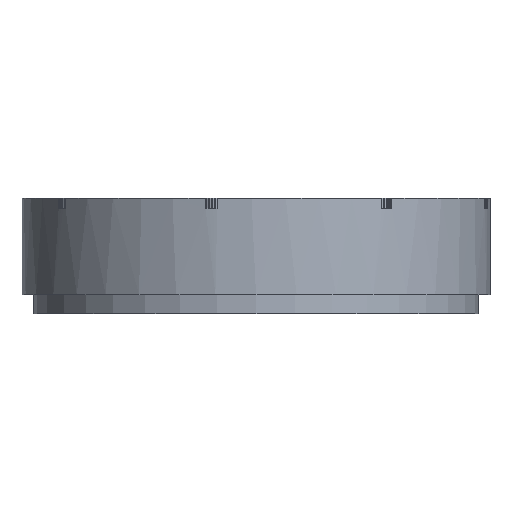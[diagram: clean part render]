
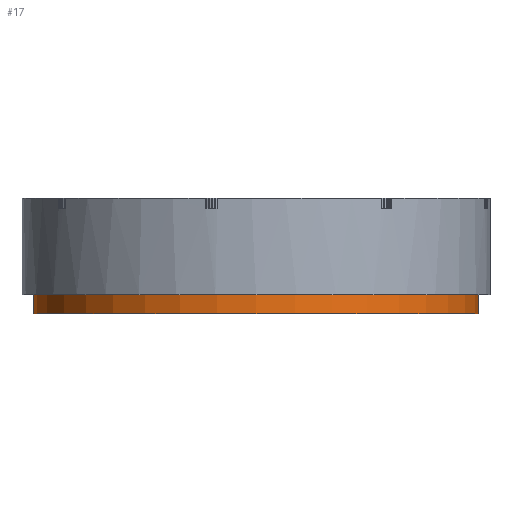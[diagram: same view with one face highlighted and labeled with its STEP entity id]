
A CAD part, front view. The second image highlights one B-rep face of the part: STEP entity #17.
In plain terms, the highlighted cylindrical face has radius 28.8 mm (diameter 57.6 mm), a full revolution.
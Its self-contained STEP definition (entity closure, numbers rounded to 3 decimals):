
#17 = ADVANCED_FACE('',(#18),#32,.T.);
#18 = FACE_BOUND('',#19,.F.);
#19 = EDGE_LOOP('',(#20,#50,#77,#78));
#20 = ORIENTED_EDGE('',*,*,#21,.T.);
#21 = EDGE_CURVE('',#22,#24,#26,.T.);
#22 = VERTEX_POINT('',#23);
#23 = CARTESIAN_POINT('',(28.8,0.,8.6));
#24 = VERTEX_POINT('',#25);
#25 = CARTESIAN_POINT('',(28.8,0.,6.1));
#26 = SEAM_CURVE('',#27,(#31,#43),.PCURVE_S1.);
#27 = LINE('',#28,#29);
#28 = CARTESIAN_POINT('',(28.8,0.,19.8));
#29 = VECTOR('',#30,1.);
#30 = DIRECTION('',(0.,0.,-1.));
#31 = PCURVE('',#32,#37);
#32 = CYLINDRICAL_SURFACE('',#33,28.8);
#33 = AXIS2_PLACEMENT_3D('',#34,#35,#36);
#34 = CARTESIAN_POINT('',(0.,0.,6.1));
#35 = DIRECTION('',(-0.,-0.,-1.));
#36 = DIRECTION('',(1.,0.,0.));
#37 = DEFINITIONAL_REPRESENTATION('',(#38),#42);
#38 = LINE('',#39,#40);
#39 = CARTESIAN_POINT('',(-6.283,-13.7));
#40 = VECTOR('',#41,1.);
#41 = DIRECTION('',(0.,1.));
#42 = ( GEOMETRIC_REPRESENTATION_CONTEXT(2) 
PARAMETRIC_REPRESENTATION_CONTEXT() REPRESENTATION_CONTEXT('2D SPACE',''
  ) );
#43 = PCURVE('',#32,#44);
#44 = DEFINITIONAL_REPRESENTATION('',(#45),#49);
#45 = LINE('',#46,#47);
#46 = CARTESIAN_POINT('',(-0.,-13.7));
#47 = VECTOR('',#48,1.);
#48 = DIRECTION('',(0.,1.));
#49 = ( GEOMETRIC_REPRESENTATION_CONTEXT(2) 
PARAMETRIC_REPRESENTATION_CONTEXT() REPRESENTATION_CONTEXT('2D SPACE',''
  ) );
#50 = ORIENTED_EDGE('',*,*,#51,.F.);
#51 = EDGE_CURVE('',#24,#24,#52,.T.);
#52 = SURFACE_CURVE('',#53,(#58,#65),.PCURVE_S1.);
#53 = CIRCLE('',#54,28.8);
#54 = AXIS2_PLACEMENT_3D('',#55,#56,#57);
#55 = CARTESIAN_POINT('',(0.,0.,6.1));
#56 = DIRECTION('',(0.,0.,1.));
#57 = DIRECTION('',(1.,0.,0.));
#58 = PCURVE('',#32,#59);
#59 = DEFINITIONAL_REPRESENTATION('',(#60),#64);
#60 = LINE('',#61,#62);
#61 = CARTESIAN_POINT('',(-0.,0.));
#62 = VECTOR('',#63,1.);
#63 = DIRECTION('',(-1.,0.));
#64 = ( GEOMETRIC_REPRESENTATION_CONTEXT(2) 
PARAMETRIC_REPRESENTATION_CONTEXT() REPRESENTATION_CONTEXT('2D SPACE',''
  ) );
#65 = PCURVE('',#66,#71);
#66 = PLANE('',#67);
#67 = AXIS2_PLACEMENT_3D('',#68,#69,#70);
#68 = CARTESIAN_POINT('',(0.,0.,6.1));
#69 = DIRECTION('',(0.,0.,1.));
#70 = DIRECTION('',(1.,0.,-0.));
#71 = DEFINITIONAL_REPRESENTATION('',(#72),#76);
#72 = CIRCLE('',#73,28.8);
#73 = AXIS2_PLACEMENT_2D('',#74,#75);
#74 = CARTESIAN_POINT('',(0.,0.));
#75 = DIRECTION('',(1.,0.));
#76 = ( GEOMETRIC_REPRESENTATION_CONTEXT(2) 
PARAMETRIC_REPRESENTATION_CONTEXT() REPRESENTATION_CONTEXT('2D SPACE',''
  ) );
#77 = ORIENTED_EDGE('',*,*,#21,.F.);
#78 = ORIENTED_EDGE('',*,*,#79,.F.);
#79 = EDGE_CURVE('',#22,#22,#80,.T.);
#80 = SURFACE_CURVE('',#81,(#86,#93),.PCURVE_S1.);
#81 = CIRCLE('',#82,28.8);
#82 = AXIS2_PLACEMENT_3D('',#83,#84,#85);
#83 = CARTESIAN_POINT('',(0.,0.,8.6));
#84 = DIRECTION('',(0.,0.,-1.));
#85 = DIRECTION('',(1.,0.,0.));
#86 = PCURVE('',#32,#87);
#87 = DEFINITIONAL_REPRESENTATION('',(#88),#92);
#88 = LINE('',#89,#90);
#89 = CARTESIAN_POINT('',(-6.283,-2.5));
#90 = VECTOR('',#91,1.);
#91 = DIRECTION('',(1.,-0.));
#92 = ( GEOMETRIC_REPRESENTATION_CONTEXT(2) 
PARAMETRIC_REPRESENTATION_CONTEXT() REPRESENTATION_CONTEXT('2D SPACE',''
  ) );
#93 = PCURVE('',#94,#99);
#94 = PLANE('',#95);
#95 = AXIS2_PLACEMENT_3D('',#96,#97,#98);
#96 = CARTESIAN_POINT('',(0.,0.,8.6));
#97 = DIRECTION('',(0.,0.,1.));
#98 = DIRECTION('',(1.,0.,-0.));
#99 = DEFINITIONAL_REPRESENTATION('',(#100),#108);
#100 = ( BOUNDED_CURVE() B_SPLINE_CURVE(2,(#101,#102,#103,#104,#105,#106
,#107),.UNSPECIFIED.,.T.,.F.) B_SPLINE_CURVE_WITH_KNOTS((1,2,2,2,2,1),(
    -2.094,0.,2.094,4.189,6.283,
8.378),.UNSPECIFIED.) CURVE() GEOMETRIC_REPRESENTATION_ITEM() 
RATIONAL_B_SPLINE_CURVE((1.,0.5,1.,0.5,1.,0.5,1.)) REPRESENTATION_ITEM(
  '') );
#101 = CARTESIAN_POINT('',(28.8,0.));
#102 = CARTESIAN_POINT('',(28.8,-49.883));
#103 = CARTESIAN_POINT('',(-14.4,-24.942));
#104 = CARTESIAN_POINT('',(-57.6,0.));
#105 = CARTESIAN_POINT('',(-14.4,24.942));
#106 = CARTESIAN_POINT('',(28.8,49.883));
#107 = CARTESIAN_POINT('',(28.8,0.));
#108 = ( GEOMETRIC_REPRESENTATION_CONTEXT(2) 
PARAMETRIC_REPRESENTATION_CONTEXT() REPRESENTATION_CONTEXT('2D SPACE',''
  ) );
